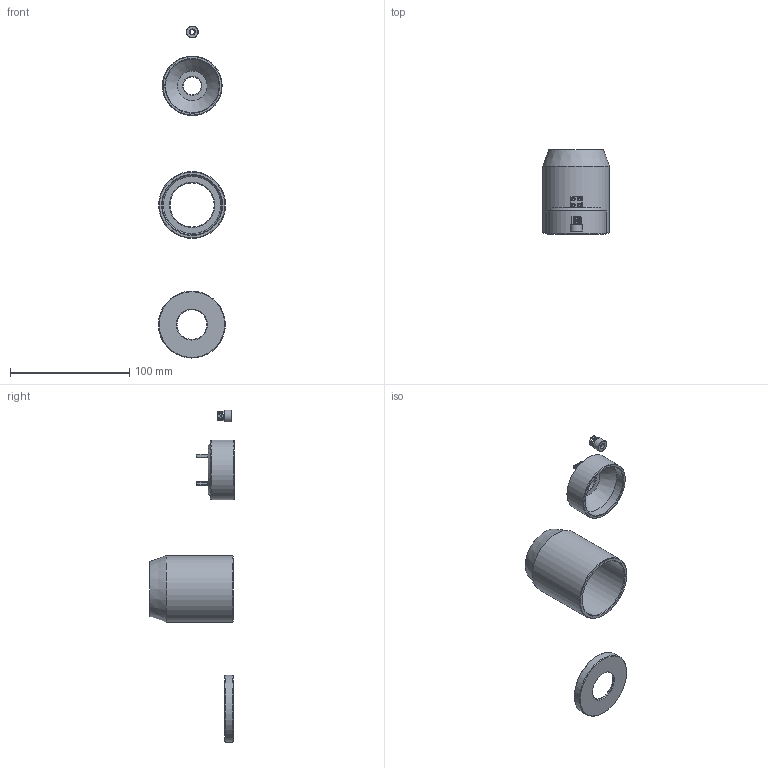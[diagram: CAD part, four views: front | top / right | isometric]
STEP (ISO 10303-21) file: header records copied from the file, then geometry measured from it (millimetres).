
FILE_DESCRIPTION(/* description */ (''),/* implementation_level */ '2;1');
FILE_NAME(/* name */ '/Users/jhkn/Google Drive/3D Printer/Media/YouMagine/MKII 5 Watt 3D printable Wind Turbine/Fusion 360 Custom Parts/Tower Assembly - 50mm Pipe/Tower Header for 50MM pipe v1.step',/* time_stamp */ '2016-12-18T12:29:55+01:00',/* author */ (''),/* organization */ (''),/* preprocessor_version */ 'ST-DEVELOPER v16.5',/* originating_system */ 'Autodesk Translation Framework v5.2.0.2920',/* authorisation */ '');
FILE_SCHEMA (('AUTOMOTIVE_DESIGN { 1 0 10303 214 3 1 1 }'));
Length unit declared in the file: millimetre
Products named in the file (5): Tower Header for 50MM pipe v1; Tower Header; Tower Axle - Cover ring; Tower header - Inside Stress Relief; Slipring stress relief
Assembly tree (4 placements, depth 2):
  Tower Header for 50MM pipe v1
    Tower Header
    Tower Axle - Cover ring
    Tower header - Inside Stress Relief
    Slipring stress relief
Bounding box: 56.18 x 70.99 x 278.17 mm (x, y, z)
Volume: 72450.2 mm3; surface area: 39743.6 mm2
Topology: 7 solids, 9 shells, 250 faces, 544 edges, 289 vertices
Faces by surface type: plane 167, cone 55, cylinder 28
Full cylindrical faces by diameter (mm): 2 x16, 4 x1, 5 x1, 10 x1, 15 x1, 25 x1, 37 x1, 44.93 x1, 50 x2, 52 x1, 56 x2
Entity records: 5710 total; most frequent: DIRECTION 1015, CARTESIAN_POINT 903, ORIENTED_EDGE 812, EDGE_CURVE 406, AXIS2_PLACEMENT_3D 362, EDGE_LOOP 352, LINE 291, VECTOR 291
